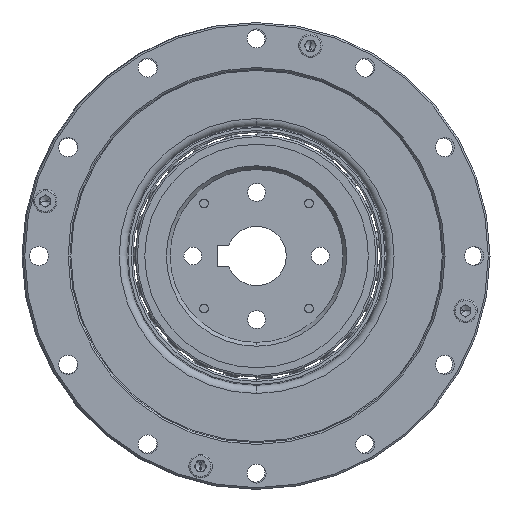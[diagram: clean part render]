
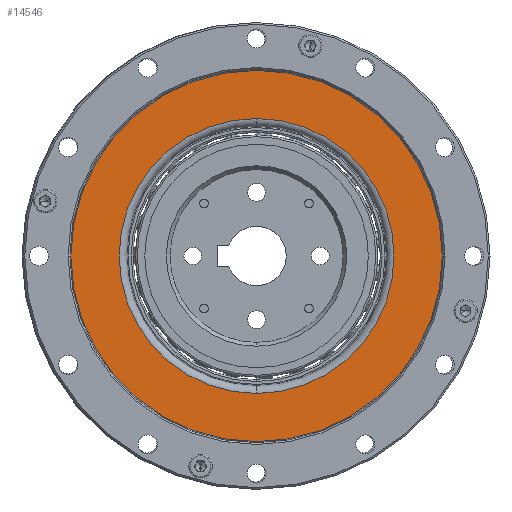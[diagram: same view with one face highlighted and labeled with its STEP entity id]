
A CAD part, left-side view. The second image highlights one B-rep face of the part: STEP entity #14546.
In plain terms, the highlighted planar face has unit normal (-1, 0, 0).
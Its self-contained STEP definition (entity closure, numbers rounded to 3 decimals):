
#1433 = CIRCLE ( 'NONE', #9634, 32.387 ) ;
#1648 = CARTESIAN_POINT ( 'NONE',  ( 3.612, -0.263, -32.387 ) ) ;
#1849 = CIRCLE ( 'NONE', #21296, 43.75 ) ;
#2304 = CARTESIAN_POINT ( 'NONE',  ( 3.612, -0.263, 0. ) ) ;
#2402 = CIRCLE ( 'NONE', #20471, 43.75 ) ;
#2443 = CARTESIAN_POINT ( 'NONE',  ( 3.612, -0.263, 0. ) ) ;
#3985 = DIRECTION ( 'NONE',  ( -1., 0., 0. ) ) ;
#4148 = DIRECTION ( 'NONE',  ( 0., 0., 1. ) ) ;
#4270 = DIRECTION ( 'NONE',  ( 0., 0., 1. ) ) ;
#5889 = CARTESIAN_POINT ( 'NONE',  ( 3.612, -0.263, 43.75 ) ) ;
#6802 = VERTEX_POINT ( 'NONE', #5889 ) ;
#7111 = EDGE_LOOP ( 'NONE', ( #10970, #12188 ) ) ;
#7143 = FACE_OUTER_BOUND ( 'NONE', #7111, .T. ) ;
#8602 = VERTEX_POINT ( 'NONE', #23450 ) ;
#9507 = VERTEX_POINT ( 'NONE', #20003 ) ;
#9634 = AXIS2_PLACEMENT_3D ( 'NONE', #9986, #22857, #11849 ) ;
#9986 = CARTESIAN_POINT ( 'NONE',  ( 3.612, -0.263, 0. ) ) ;
#10403 = EDGE_LOOP ( 'NONE', ( #19279, #15299 ) ) ;
#10462 = CIRCLE ( 'NONE', #16365, 32.387 ) ;
#10766 = DIRECTION ( 'NONE',  ( 0., 0., -1. ) ) ;
#10970 = ORIENTED_EDGE ( 'NONE', *, *, #23404, .T. ) ;
#11849 = DIRECTION ( 'NONE',  ( 0., 0., 1. ) ) ;
#12188 = ORIENTED_EDGE ( 'NONE', *, *, #19016, .T. ) ;
#12532 = CARTESIAN_POINT ( 'NONE',  ( 3.612, 43.487, 0. ) ) ;
#13711 = EDGE_CURVE ( 'NONE', #19422, #8602, #1433, .T. ) ;
#14335 = FACE_BOUND ( 'NONE', #10403, .T. ) ;
#14546 = ADVANCED_FACE ( 'NONE', ( #14335, #7143 ), #19858, .F. ) ;
#15017 = CARTESIAN_POINT ( 'NONE',  ( 3.612, -0.263, 0. ) ) ;
#15154 = DIRECTION ( 'NONE',  ( -1., 0., 0. ) ) ;
#15299 = ORIENTED_EDGE ( 'NONE', *, *, #13711, .F. ) ;
#15306 = DIRECTION ( 'NONE',  ( -1., 0., 0. ) ) ;
#16365 = AXIS2_PLACEMENT_3D ( 'NONE', #15017, #3985, #16854 ) ;
#16854 = DIRECTION ( 'NONE',  ( 0., 0., 1. ) ) ;
#18969 = EDGE_CURVE ( 'NONE', #8602, #19422, #10462, .T. ) ;
#19016 = EDGE_CURVE ( 'NONE', #9507, #6802, #1849, .T. ) ;
#19279 = ORIENTED_EDGE ( 'NONE', *, *, #18969, .F. ) ;
#19422 = VERTEX_POINT ( 'NONE', #1648 ) ;
#19858 = PLANE ( 'NONE',  #23042 ) ;
#20003 = CARTESIAN_POINT ( 'NONE',  ( 3.612, -0.263, -43.75 ) ) ;
#20471 = AXIS2_PLACEMENT_3D ( 'NONE', #2443, #15306, #4270 ) ;
#21296 = AXIS2_PLACEMENT_3D ( 'NONE', #2304, #15154, #4148 ) ;
#21781 = DIRECTION ( 'NONE',  ( 1., 0., 0. ) ) ;
#22857 = DIRECTION ( 'NONE',  ( -1., 0., 0. ) ) ;
#23042 = AXIS2_PLACEMENT_3D ( 'NONE', #12532, #21781, #10766 ) ;
#23404 = EDGE_CURVE ( 'NONE', #6802, #9507, #2402, .T. ) ;
#23450 = CARTESIAN_POINT ( 'NONE',  ( 3.612, -0.263, 32.387 ) ) ;
